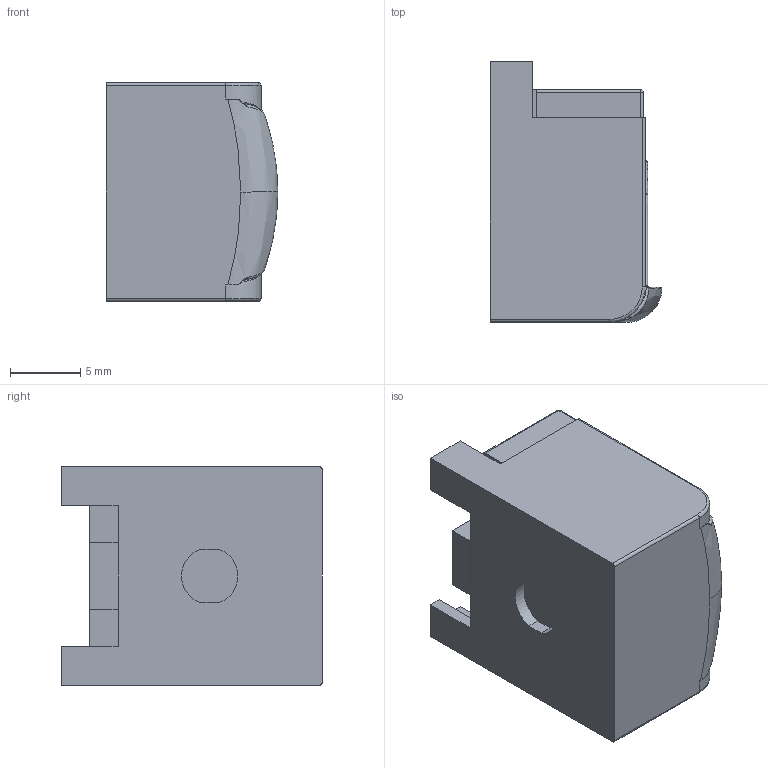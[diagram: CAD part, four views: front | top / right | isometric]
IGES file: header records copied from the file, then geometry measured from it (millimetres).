
Start section:  PTC IGES file: 16019011.igs
Global section: file name: 16019011.igs; native system: Pro/ENGINEER by Parametric Technology Corporation; preprocessor: 2009440; author: Christian; organization: Unknown; date: 20100310.111900; units: millimetre
Bounding box: 12.2 x 18.5 x 15.5 mm (x, y, z)
Volume: 2712.5 mm3; surface area: 1823.1 mm2
Topology: 1 solids, 1 shells, 157 faces, 416 edges, 261 vertices
Faces by surface type: bspline 92, revolution 65
